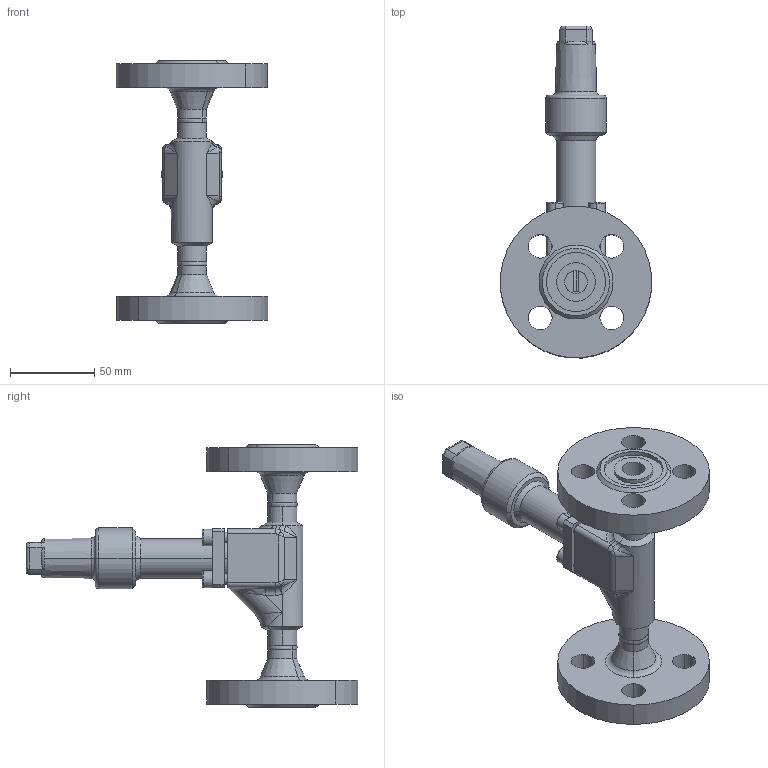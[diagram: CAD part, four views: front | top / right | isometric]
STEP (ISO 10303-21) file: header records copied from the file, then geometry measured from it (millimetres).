
FILE_DESCRIPTION (( 'STEP AP214' ), '1' );
FILE_NAME ('RVAK97320-DN010_DIN-FL-N_PS40.STEP', '2006-05-02T08:35:30', ( 'Herr Grams' ), ( 'AWP GmbH' ), 'SwSTEP 2.0', 'SolidWorks 2002296', '' );
FILE_SCHEMA (( 'AUTOMOTIVE_DESIGN' ));
Length unit declared in the file: millimetre
Products named in the file (10): RVAK97320-DN010_DIN-FL-N_PS40; Geh-kpl96320E08-DN10_PS40_DIN-FL_Standard; Gehäuse96300E08-DN10_PS40_R1_Standard; bead963-DN010-2_Standard; bead963-DN010-1_Standard; Flansch-DIN2635-Nut_PS40_DIN-Flansch-DN010_PS40-Nut; RVA99300E10_Deck+Schr-DN6-15_Standard; Deckel99300E10-DN6-15_PS40_Standard; Zylinderschraube-DIN912_M 6x 18; Kappe96300E10_DN6-20_Standard
Assembly tree (13 placements, depth 3):
  RVAK97320-DN010_DIN-FL-N_PS40
    RVA99300E10_Deck+Schr-DN6-15_Standard
      Zylinderschraube-DIN912_M 6x 18  x4
      Deckel99300E10-DN6-15_PS40_Standard
    Kappe96300E10_DN6-20_Standard
    Geh-kpl96320E08-DN10_PS40_DIN-FL_Standard
      Flansch-DIN2635-Nut_PS40_DIN-Flansch-DN010_PS40-Nut  x2
      bead963-DN010-1_Standard
      bead963-DN010-2_Standard
      Gehäuse96300E08-DN10_PS40_R1_Standard
Bounding box: 89.66 x 196.83 x 156 mm (x, y, z)
Volume: 283874.9 mm3; surface area: 79018.3 mm2
Topology: 11 solids, 11 shells, 343 faces, 798 edges, 489 vertices
Faces by surface type: cylinder 128, plane 101, cone 49, bspline 37, torus 28
Entity records: 21550 total; most frequent: CARTESIAN_POINT 15061, ORIENTED_EDGE 1208, DIRECTION 1178, EDGE_CURVE 604, AXIS2_PLACEMENT_3D 490, VERTEX_POINT 371, EDGE_LOOP 293, ADVANCED_FACE 257
